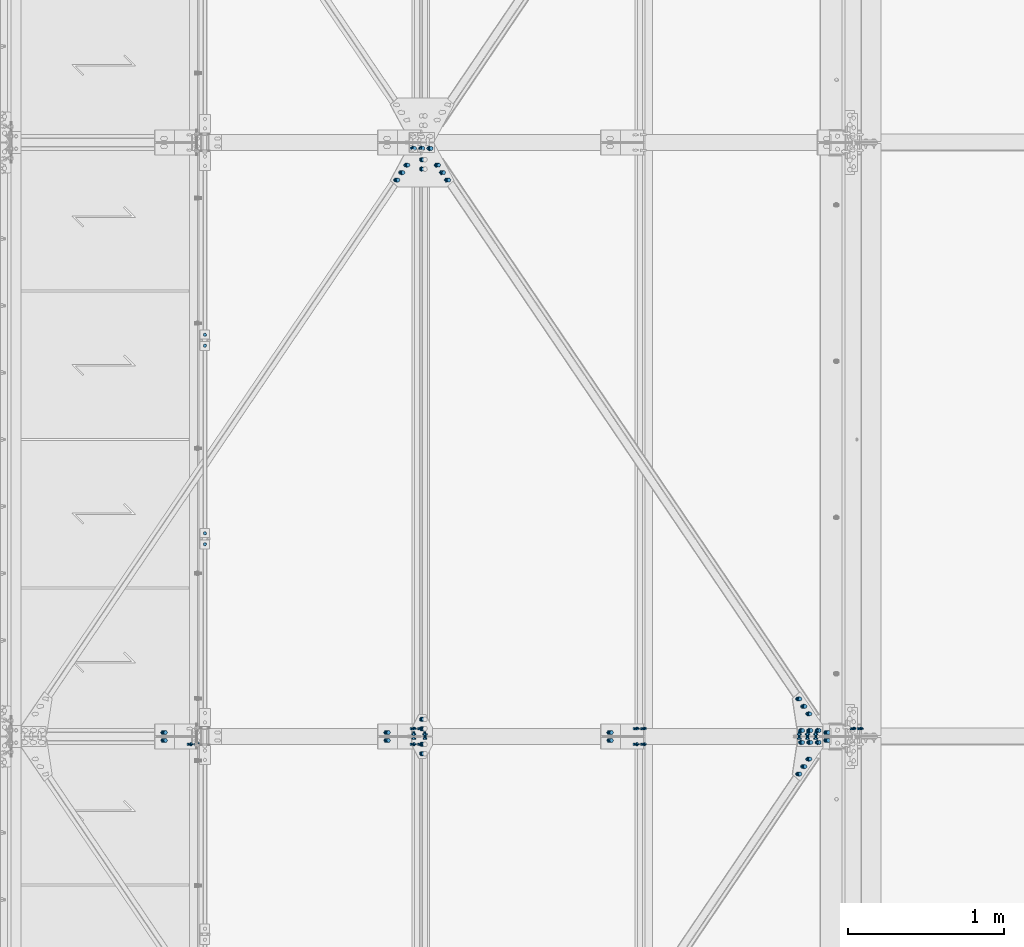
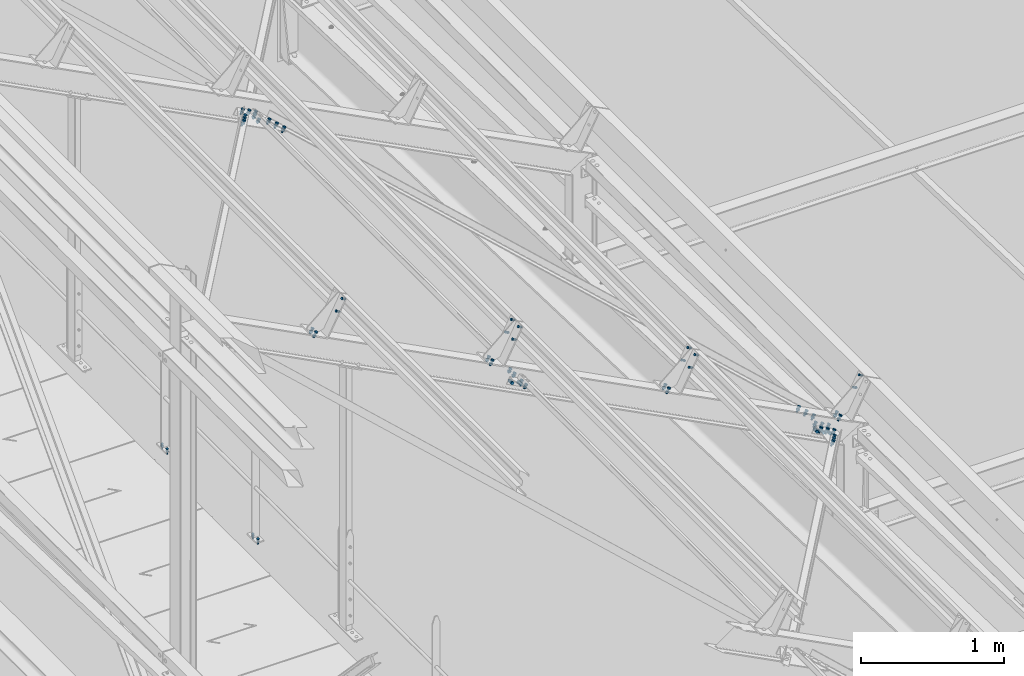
# One storey, part 175 of 362: 24 mechanical fasteners.
"""IFC2X3 building model written with IfcOpenShell, lengths in millimetres."""

from ifc_helpers import new_model, si_unit, frame, origin_with_axes, origin_2d_with_axis, place, context, subcontext, project, spatial, polyline, circle, outline, extrude, source, transform, mapped, material, type_object, element, save


model = new_model("IFC2X3")

# Units and contexts
model_context = context("Model", 3, precision=1e-05, world=origin_with_axes())
body_context = subcontext(model_context, "Body", "Model", "MODEL_VIEW")
ifc_project = project(units=[si_unit("LENGTHUNIT", "METRE", prefix="MILLI"), si_unit("AREAUNIT", "SQUARE_METRE"), si_unit("VOLUMEUNIT", "CUBIC_METRE"), si_unit("MASSUNIT", "GRAM", prefix="KILO"), si_unit("TIMEUNIT", "SECOND"), si_unit("PLANEANGLEUNIT", "RADIAN"), si_unit("SOLIDANGLEUNIT", "STERADIAN"), si_unit("THERMODYNAMICTEMPERATUREUNIT", "DEGREE_CELSIUS"), si_unit("LUMINOUSINTENSITYUNIT", "LUMEN")], contexts=[model_context])

# Site, building, storey
site_placement = place(None, origin_with_axes())
site = spatial("IfcSite", under=ifc_project, at=site_placement, Name="Undefined", CompositionType="ELEMENT")
building_placement = place(site_placement, origin_with_axes())
building = spatial("IfcBuilding", under=site, at=building_placement, Name="Undefined", CompositionType="ELEMENT")
storey_placement = place(building_placement, origin_with_axes())
storey = spatial("IfcBuildingStorey", under=building, at=storey_placement, Name="Undefined", CompositionType="ELEMENT", Elevation=0.0)

# Mechanical fasteners
ifc_material_1 = material(Name="8.8-SB-ZINGUE")
mechanical_fastener_type = type_object("IfcMechanicalFastenerType", Name="Bolt assembly")
shared_shape_1 = source(origin_with_axes(), body_context, "Body", "SweptSolid", [
    extrude(circle(Radius=7.0, at=origin_2d_with_axis()), frame((0.0, -0.100011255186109, 0.0), z_axis=(0.0, 1.0, 0.0), x_axis=(1.0, 0.0, 0.0)), (0.0, 0.0, 1.0), 3.1),
    extrude(circle(Radius=7.0, at=origin_2d_with_axis()), frame((0.0, -9.9, 0.0), z_axis=(0.0, 1.0, 0.0), x_axis=(1.0, 0.0, 0.0)), (0.0, 0.0, 1.0), 10.0),
    extrude(outline(polyline([(10.39230484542, 0.0), (5.19615242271, 9.00000000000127), (-5.19615242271, 9.00000000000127), (-10.39230484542, 0.0), (-5.19615242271, -9.00000000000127), (5.19615242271, -9.00000000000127), (10.39230484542, 0.0)])), frame((0.0, -17.92, 0.0), z_axis=(0.0, 1.0, 0.0), x_axis=(1.0, 0.0, 0.0)), (0.0, 0.0, 1.0), 7.92),
    extrude(circle(Radius=6.0, at=origin_2d_with_axis()), frame((0.0, -10.0000010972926, 0.0), z_axis=(0.0, 1.0, 0.0), x_axis=(1.0, 0.0, 0.0)), (0.0, 0.0, 1.0), 30.0),
    extrude(outline(polyline([(11.5008173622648, 0.0), (5.7504086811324, 9.96000000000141), (-5.7504086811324, 9.96000000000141), (-11.5008173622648, 0.0), (-5.7504086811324, -9.96000000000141), (5.7504086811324, -9.96000000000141), (11.5008173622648, 0.0)])), frame((0.0, 3.00000067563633, 0.0), z_axis=(0.0, 1.0, 0.0), x_axis=(1.0, 0.0, 0.0)), (0.0, 0.0, 1.0), 7.92),
])
mechanical_fastener_1_placement = place(storey_placement, frame((28930.4869404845, 7649.9999403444, 8812.17854909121), z_axis=(0.0, 1.0, 0.0), x_axis=(0.460093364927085, 0.0, 0.887870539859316)))
element("IfcMechanicalFastener", 1, at=mechanical_fastener_1_placement, inside=storey, type_object=mechanical_fastener_type, material=ifc_material_1, Name="Bolt assembly", NominalDiameter=12.0, NominalLength=30.0, context=body_context, shape_type="MappedRepresentation", body=[
    mapped(shared_shape_1, transform((0.0, 0.0, 0.0))),
    mapped(shared_shape_1, transform((99.9999999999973, -1.63709046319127e-11, 7.73070496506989e-12))),
])
ifc_material_2 = material(Name="#_SB-8.8-ZINGUE")
shared_shape_2 = source(origin_with_axes(), body_context, "Body", "SweptSolid", [
    extrude(circle(Radius=9.0, at=origin_2d_with_axis()), frame((0.0, 0.1, 0.0), z_axis=(0.0, 1.0, 0.0), x_axis=(1.0, 0.0, 0.0)), (0.0, 0.0, 1.0), 6.0),
    extrude(circle(Radius=9.0, at=origin_2d_with_axis()), frame((0.0, 5.90002706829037, 0.0), z_axis=(0.0, 1.0, 0.0), x_axis=(1.0, 0.0, 0.0)), (0.0, 0.0, 1.0), 6.1),
    extrude(outline(polyline([(13.85640646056, 0.0), (6.92820323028, 12.0000000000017), (-6.92820323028, 12.0000000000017), (-13.85640646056, 0.0), (-6.92820323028, -12.0000000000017), (6.92820323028, -12.0000000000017), (13.85640646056, 0.0)])), frame((0.0, -10.5600019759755, 0.0), z_axis=(0.0, 1.0, 0.0), x_axis=(1.0, 0.0, 0.0)), (0.0, 0.0, 1.0), 10.56),
    extrude(circle(Radius=8.0, at=origin_2d_with_axis()), frame((0.0, 0.0, 0.0), z_axis=(0.0, 1.0, 0.0), x_axis=(1.0, 0.0, 0.0)), (0.0, 0.0, 1.0), 40.0),
    extrude(outline(polyline([(15.3344231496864, 0.0), (7.6672115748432, 13.2800000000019), (-7.6672115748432, 13.2800000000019), (-15.3344231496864, 0.0), (-7.6672115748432, -13.2800000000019), (7.6672115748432, -13.2800000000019), (15.3344231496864, 0.0)])), frame((0.0, 12.0000270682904, 0.0), z_axis=(0.0, 1.0, 0.0), x_axis=(1.0, 0.0, 0.0)), (0.0, 0.0, 1.0), 10.56),
])
mechanical_fastener_2_placement = place(storey_placement, frame((28658.0392827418, 7562.00034260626, 8604.21056185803), z_axis=(-0.887870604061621, -1.29999898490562e-08, 0.460093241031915), x_axis=(0.0, 1.0, 0.0)))
element("IfcMechanicalFastener", 2, at=mechanical_fastener_2_placement, inside=storey, type_object=mechanical_fastener_type, material=ifc_material_2, Name="Bolt assembly", NominalDiameter=16.0, NominalLength=40.0, context=body_context, shape_type="MappedRepresentation", body=[
    mapped(shared_shape_2, transform((0.0, 0.0, -60.0))),
    mapped(shared_shape_2, transform((0.0, 0.0, 0.0))),
    mapped(shared_shape_2, transform((0.0, 0.0, 60.0))),
])
shared_shape_3 = source(origin_with_axes(), body_context, "Body", "SweptSolid", [
    extrude(circle(Radius=7.0, at=origin_2d_with_axis()), frame((0.0, -10.0000010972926, 0.0), z_axis=(0.0, 1.0, 0.0), x_axis=(1.0, 0.0, 0.0)), (0.0, 0.0, 1.0), 10.1),
    extrude(outline(polyline([(10.39230484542, 0.0), (5.19615242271, 9.00000000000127), (-5.19615242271, 9.00000000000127), (-10.39230484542, 0.0), (-5.19615242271, -9.00000000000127), (5.19615242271, -9.00000000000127), (10.39230484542, 0.0)])), frame((0.0, -17.92, 0.0), z_axis=(0.0, 1.0, 0.0), x_axis=(1.0, 0.0, 0.0)), (0.0, 0.0, 1.0), 7.92),
    extrude(circle(Radius=6.0, at=origin_2d_with_axis()), frame((0.0, -10.0000010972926, 0.0), z_axis=(0.0, 1.0, 0.0), x_axis=(1.0, 0.0, 0.0)), (0.0, 0.0, 1.0), 40.0),
    extrude(outline(polyline([(11.5008173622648, 0.0), (5.7504086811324, 9.96000000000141), (-5.7504086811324, 9.96000000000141), (-11.5008173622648, 0.0), (-5.7504086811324, -9.96000000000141), (5.7504086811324, -9.96000000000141), (11.5008173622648, 0.0)])), frame((0.0, 0.0, 0.0), z_axis=(0.0, 1.0, 0.0), x_axis=(1.0, 0.0, 0.0)), (0.0, 0.0, 1.0), 7.92),
])
for number, where, z_axis, x_axis, name in (
    (3, (24783.9916039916, 8830.00343957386, 8240.00000102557), (-1.0, 0.0, 0.0), (0.0, 1.0, 0.0), "Bolt assembly"),
    (4, (24783.9916050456, 10100.0034395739, 8240.00000015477), (-1.0, 0.0, 0.0), (0.0, 1.0, 0.0), "Bolt assembly"),
):
    element("IfcMechanicalFastener", number, at=place(storey_placement, frame(where, z_axis=z_axis, x_axis=x_axis)), inside=storey, type_object=mechanical_fastener_type, material=ifc_material_1, Name=name, NominalDiameter=12.0, NominalLength=40.0, context=body_context, shape_type="MappedRepresentation", body=[
        mapped(shared_shape_3, transform((0.0, 0.0, 0.0))),
        mapped(shared_shape_3, transform((70.0, -2.91038304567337e-11, 2.18278728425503e-10))),
    ])
shared_shape_4 = source(origin_with_axes(), body_context, "Body", "SweptSolid", [
    extrude(circle(Radius=9.0, at=origin_2d_with_axis()), frame((0.0, -5.8999542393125, 0.0), z_axis=(0.0, 1.0, 0.0), x_axis=(1.0, 0.0, 0.0)), (0.0, 0.0, 1.0), 6.0),
    extrude(circle(Radius=9.0, at=origin_2d_with_axis()), frame((0.0, -0.10007666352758, 0.0), z_axis=(0.0, 1.0, 0.0), x_axis=(1.0, 0.0, 0.0)), (0.0, 0.0, 1.0), 6.1),
    extrude(outline(polyline([(13.85640646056, 0.0), (6.92820323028, 12.0000000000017), (-6.92820323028, 12.0000000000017), (-13.85640646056, 0.0), (-6.92820323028, -12.0000000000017), (6.92820323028, -12.0000000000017), (13.85640646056, 0.0)])), frame((0.0, -16.5599735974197, 0.0), z_axis=(0.0, 1.0, 0.0), x_axis=(1.0, 0.0, 0.0)), (0.0, 0.0, 1.0), 10.56),
    extrude(circle(Radius=8.0, at=origin_2d_with_axis()), frame((0.0, -5.9999542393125, 0.0), z_axis=(0.0, 1.0, 0.0), x_axis=(1.0, 0.0, 0.0)), (0.0, 0.0, 1.0), 40.0),
    extrude(outline(polyline([(15.3344231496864, 0.0), (7.6672115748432, 13.2800000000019), (-7.6672115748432, 13.2800000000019), (-15.3344231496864, 0.0), (-7.6672115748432, -13.2800000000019), (7.6672115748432, -13.2800000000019), (15.3344231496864, 0.0)])), frame((0.0, 6.0, 0.0), z_axis=(0.0, 1.0, 0.0), x_axis=(1.0, 0.0, 0.0)), (0.0, 0.0, 1.0), 10.56),
])
mechanical_fastener_3_placement = place(storey_placement, frame((26273.0064541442, 11255.1901202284, 9840.13105217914), z_axis=(0.706117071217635, 0.60622555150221, -0.365908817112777), x_axis=(0.538249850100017, -0.795292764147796, -0.278920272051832)))
element("IfcMechanicalFastener", 5, at=mechanical_fastener_3_placement, inside=storey, type_object=mechanical_fastener_type, material=ifc_material_2, Name="Bolt assembly", NominalDiameter=16.0, NominalLength=40.0, context=body_context, shape_type="MappedRepresentation", body=[
    mapped(shared_shape_4, transform((0.0, 0.0, 0.0))),
    mapped(shared_shape_4, transform((60.0, 0.0, 0.0))),
    mapped(shared_shape_4, transform((120.0, 0.0, 0.0))),
])
shared_shape_5 = source(origin_with_axes(), body_context, "Body", "SweptSolid", [
    extrude(circle(Radius=7.0, at=origin_2d_with_axis()), frame((0.0, -0.100011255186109, 0.0), z_axis=(0.0, 1.0, 0.0), x_axis=(1.0, 0.0, 0.0)), (0.0, 0.0, 1.0), 1.6),
    extrude(circle(Radius=7.0, at=origin_2d_with_axis()), frame((0.0, -9.9, 0.0), z_axis=(0.0, 1.0, 0.0), x_axis=(1.0, 0.0, 0.0)), (0.0, 0.0, 1.0), 10.0),
    extrude(outline(polyline([(10.39230484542, 0.0), (5.19615242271, 9.00000000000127), (-5.19615242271, 9.00000000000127), (-10.39230484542, 0.0), (-5.19615242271, -9.00000000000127), (5.19615242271, -9.00000000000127), (10.39230484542, 0.0)])), frame((0.0, -17.92, 0.0), z_axis=(0.0, 1.0, 0.0), x_axis=(1.0, 0.0, 0.0)), (0.0, 0.0, 1.0), 7.92),
    extrude(circle(Radius=6.0, at=origin_2d_with_axis()), frame((0.0, -10.0000010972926, 0.0), z_axis=(0.0, 1.0, 0.0), x_axis=(1.0, 0.0, 0.0)), (0.0, 0.0, 1.0), 30.0),
    extrude(outline(polyline([(11.5008173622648, 0.0), (5.7504086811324, 9.96000000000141), (-5.7504086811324, 9.96000000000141), (-11.5008173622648, 0.0), (-5.7504086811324, -9.96000000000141), (5.7504086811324, -9.96000000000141), (11.5008173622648, 0.0)])), frame((0.0, 1.50001896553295, 0.0), z_axis=(0.0, 1.0, 0.0), x_axis=(1.0, 0.0, 0.0)), (0.0, 0.0, 1.0), 7.92),
])
for number, where, z_axis, x_axis, name in (
    (6, (27543.3559964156, 7649.9999403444, 9529.86147368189), (0.0, 1.0, 0.0), (0.460093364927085, 0.0, 0.887870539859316), "Bolt assembly"),
    (7, (26116.7309957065, 7649.9999403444, 10269.1364505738), (0.0, 1.0, 0.0), (0.460093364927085, 0.0, 0.887870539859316), "Bolt assembly"),
):
    element("IfcMechanicalFastener", number, at=place(storey_placement, frame(where, z_axis=z_axis, x_axis=x_axis)), inside=storey, type_object=mechanical_fastener_type, material=ifc_material_1, Name=name, NominalDiameter=12.0, NominalLength=30.0, context=body_context, shape_type="MappedRepresentation", body=[
        mapped(shared_shape_5, transform((0.0, 0.0, 0.0))),
        mapped(shared_shape_5, transform((102.00000000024, -2.51020537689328e-10, 0.0))),
    ])
shared_shape_6 = source(origin_with_axes(), body_context, "Body", "SweptSolid", [
    extrude(circle(Radius=7.0, at=origin_2d_with_axis()), frame((0.0, -0.10007666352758, 0.0), z_axis=(0.0, 1.0, 0.0), x_axis=(1.0, 0.0, 0.0)), (0.0, 0.0, 1.0), 1.6),
    extrude(circle(Radius=7.0, at=origin_2d_with_axis()), frame((0.0, -9.9, 0.0), z_axis=(0.0, 1.0, 0.0), x_axis=(1.0, 0.0, 0.0)), (0.0, 0.0, 1.0), 10.0),
    extrude(outline(polyline([(10.39230484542, 0.0), (5.19615242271, 9.00000000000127), (-5.19615242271, 9.00000000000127), (-10.39230484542, 0.0), (-5.19615242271, -9.00000000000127), (5.19615242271, -9.00000000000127), (10.39230484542, 0.0)])), frame((0.0, -17.92, 0.0), z_axis=(0.0, 1.0, 0.0), x_axis=(1.0, 0.0, 0.0)), (0.0, 0.0, 1.0), 7.92),
    extrude(circle(Radius=6.0, at=origin_2d_with_axis()), frame((0.0, -10.0000010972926, 0.0), z_axis=(0.0, 1.0, 0.0), x_axis=(1.0, 0.0, 0.0)), (0.0, 0.0, 1.0), 30.0),
    extrude(outline(polyline([(11.5008173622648, 0.0), (5.7504086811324, 9.96000000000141), (-5.7504086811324, 9.96000000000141), (-11.5008173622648, 0.0), (-5.7504086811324, -9.96000000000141), (5.7504086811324, -9.96000000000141), (11.5008173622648, 0.0)])), frame((0.0, 1.49996853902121, 0.0), z_axis=(0.0, 1.0, 0.0), x_axis=(1.0, 0.0, 0.0)), (0.0, 0.0, 1.0), 7.92),
])
for number, where, z_axis, x_axis, name in (
    (8, (24690.1059950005, 7550.0000596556, 11008.4114274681), (0.0, 1.0, 0.0), (0.460093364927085, 0.0, 0.887870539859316), "Bolt assembly"),
    (9, (27543.3559964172, 7550.0000596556, 9529.86147368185), (0.0, 1.0, 0.0), (0.460093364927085, 0.0, 0.887870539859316), "Bolt assembly"),
    (10, (26116.7309957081, 7550.0000596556, 10269.1364505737), (0.0, 1.0, 0.0), (0.460093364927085, 0.0, 0.887870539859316), "Bolt assembly"),
):
    element("IfcMechanicalFastener", number, at=place(storey_placement, frame(where, z_axis=z_axis, x_axis=x_axis)), inside=storey, type_object=mechanical_fastener_type, material=ifc_material_1, Name=name, NominalDiameter=12.0, NominalLength=30.0, context=body_context, shape_type="MappedRepresentation", body=[
        mapped(shared_shape_6, transform((0.0, 0.0, 0.0))),
        mapped(shared_shape_6, transform((102.00000000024, -2.51020537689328e-10, 0.0))),
    ])
shared_shape_7 = source(origin_with_axes(), body_context, "Body", "SweptSolid", [
    extrude(circle(Radius=9.0, at=origin_2d_with_axis()), frame((0.0, -0.0999426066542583, 0.0), z_axis=(0.0, 1.0, 0.0), x_axis=(1.0, 0.0, 0.0)), (0.0, 0.0, 1.0), 8.6),
    extrude(circle(Radius=9.0, at=origin_2d_with_axis()), frame((0.0, -9.9, 0.0), z_axis=(0.0, 1.0, 0.0), x_axis=(1.0, 0.0, 0.0)), (0.0, 0.0, 1.0), 10.0),
    extrude(outline(polyline([(13.85640646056, 0.0), (6.92820323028, 12.0000000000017), (-6.92820323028, 12.0000000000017), (-13.85640646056, 0.0), (-6.92820323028, -12.0000000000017), (6.92820323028, -12.0000000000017), (13.85640646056, 0.0)])), frame((0.0, -20.5600000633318, 0.0), z_axis=(0.0, 1.0, 0.0), x_axis=(1.0, 0.0, 0.0)), (0.0, 0.0, 1.0), 10.56),
    extrude(circle(Radius=8.0, at=origin_2d_with_axis()), frame((0.0, -10.0000010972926, 0.0), z_axis=(0.0, 1.0, 0.0), x_axis=(1.0, 0.0, 0.0)), (0.0, 0.0, 1.0), 40.0),
    extrude(outline(polyline([(15.3344231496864, 0.0), (7.6672115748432, 13.2800000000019), (-7.6672115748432, 13.2800000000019), (-15.3344231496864, 0.0), (-7.6672115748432, -13.2800000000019), (7.6672115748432, -13.2800000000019), (15.3344231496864, 0.0)])), frame((0.0, 8.50005763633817, 0.0), z_axis=(0.0, 1.0, 0.0), x_axis=(1.0, 0.0, 0.0)), (0.0, 0.0, 1.0), 10.56),
])
for number, where, z_axis, x_axis, name in (
    (11, (24522.9168472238, 7600.00003751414, 10859.6539964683), (0.0, 1.0, 0.0), (0.887870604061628, 0.0, -0.460093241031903), "Bolt assembly"),
    (12, (28762.8376993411, 7600.00003751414, 8662.53324755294), (0.0, 1.0, 0.0), (0.887870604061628, 0.0, -0.460093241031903), "Bolt assembly"),
    (13, (27376.1668486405, 7600.00003751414, 9381.10404268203), (0.0, 1.0, 0.0), (0.887870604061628, 0.0, -0.460093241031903), "Bolt assembly"),
    (14, (25949.541847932, 7600.00003751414, 10120.3790195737), (0.0, 1.0, 0.0), (0.887870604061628, 0.0, -0.460093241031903), "Bolt assembly"),
):
    element("IfcMechanicalFastener", number, at=place(storey_placement, frame(where, z_axis=z_axis, x_axis=x_axis)), inside=storey, type_object=mechanical_fastener_type, material=ifc_material_1, Name=name, NominalDiameter=16.0, NominalLength=40.0, context=body_context, shape_type="MappedRepresentation", body=[
        mapped(shared_shape_7, transform((0.0, 0.0, -25.0))),
        mapped(shared_shape_7, transform((0.0, 0.0, 25.0))),
    ])
shared_shape_8 = source(origin_with_axes(), body_context, "Body", "SweptSolid", [
    extrude(circle(Radius=9.0, at=origin_2d_with_axis()), frame((0.0, 5.90002706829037, 0.0), z_axis=(0.0, 1.0, 0.0), x_axis=(1.0, 0.0, 0.0)), (0.0, 0.0, 1.0), 6.1),
    extrude(circle(Radius=9.0, at=origin_2d_with_axis()), frame((0.0, 0.1, 0.0), z_axis=(0.0, 1.0, 0.0), x_axis=(1.0, 0.0, 0.0)), (0.0, 0.0, 1.0), 6.0),
    extrude(outline(polyline([(13.85640646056, 0.0), (6.92820323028, 12.0000000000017), (-6.92820323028, 12.0000000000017), (-13.85640646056, 0.0), (-6.92820323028, -12.0000000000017), (6.92820323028, -12.0000000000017), (13.85640646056, 0.0)])), frame((0.0, -10.5600019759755, 0.0), z_axis=(0.0, 1.0, 0.0), x_axis=(1.0, 0.0, 0.0)), (0.0, 0.0, 1.0), 10.56),
    extrude(circle(Radius=8.0, at=origin_2d_with_axis()), frame((0.0, 0.0, 0.0), z_axis=(0.0, 1.0, 0.0), x_axis=(1.0, 0.0, 0.0)), (0.0, 0.0, 1.0), 40.0),
    extrude(outline(polyline([(15.3344231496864, 0.0), (7.6672115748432, 13.2800000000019), (-7.6672115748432, 13.2800000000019), (-15.3344231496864, 0.0), (-7.6672115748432, -13.2800000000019), (7.6672115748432, -13.2800000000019), (15.3344231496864, 0.0)])), frame((0.0, 12.0000270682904, 0.0), z_axis=(0.0, 1.0, 0.0), x_axis=(1.0, 0.0, 0.0)), (0.0, 0.0, 1.0), 10.56),
])
mechanical_fastener_4_placement = place(storey_placement, frame((26175.0008549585, 11362.0003050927, 9890.91740869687), z_axis=(-0.887870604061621, -1.29999898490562e-08, 0.460093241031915), x_axis=(0.0, 1.0, 0.0)))
element("IfcMechanicalFastener", 15, at=mechanical_fastener_4_placement, inside=storey, type_object=mechanical_fastener_type, material=ifc_material_2, Name="Bolt assembly", NominalDiameter=16.0, NominalLength=40.0, context=body_context, shape_type="MappedRepresentation", body=[
    mapped(shared_shape_8, transform((0.0, 0.0, -60.0))),
    mapped(shared_shape_8, transform((0.0, 0.0, 0.0))),
    mapped(shared_shape_8, transform((0.0, 0.0, 60.0))),
])
shared_shape_9 = source(origin_with_axes(), body_context, "Body", "SweptSolid", [
    extrude(circle(Radius=9.0, at=origin_2d_with_axis()), frame((0.0, -5.8999542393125, 0.0), z_axis=(0.0, 1.0, 0.0), x_axis=(1.0, 0.0, 0.0)), (0.0, 0.0, 1.0), 6.0),
    extrude(circle(Radius=9.0, at=origin_2d_with_axis()), frame((0.0, -0.0999426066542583, 0.0), z_axis=(0.0, 1.0, 0.0), x_axis=(1.0, 0.0, 0.0)), (0.0, 0.0, 1.0), 6.1),
    extrude(outline(polyline([(13.85640646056, 0.0), (6.92820323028, 12.0000000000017), (-6.92820323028, 12.0000000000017), (-13.85640646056, 0.0), (-6.92820323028, -12.0000000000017), (6.92820323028, -12.0000000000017), (13.85640646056, 0.0)])), frame((0.0, -16.5599735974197, 0.0), z_axis=(0.0, 1.0, 0.0), x_axis=(1.0, 0.0, 0.0)), (0.0, 0.0, 1.0), 10.56),
    extrude(circle(Radius=8.0, at=origin_2d_with_axis()), frame((0.0, -5.9999542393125, 0.0), z_axis=(0.0, 1.0, 0.0), x_axis=(1.0, 0.0, 0.0)), (0.0, 0.0, 1.0), 40.0),
    extrude(outline(polyline([(15.3344231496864, 0.0), (7.6672115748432, 13.2800000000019), (-7.6672115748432, 13.2800000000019), (-15.3344231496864, 0.0), (-7.6672115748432, -13.2800000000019), (7.6672115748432, -13.2800000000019), (15.3344231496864, 0.0)])), frame((0.0, 6.0, 0.0), z_axis=(0.0, 1.0, 0.0), x_axis=(1.0, 0.0, 0.0)), (0.0, 0.0, 1.0), 10.56),
])
mechanical_fastener_5_placement = place(storey_placement, frame((26076.9933671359, 11255.1901179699, 9941.70474554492), z_axis=(0.706117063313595, -0.606225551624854, -0.365908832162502), x_axis=(-0.53824984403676, -0.795292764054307, 0.278920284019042)))
element("IfcMechanicalFastener", 16, at=mechanical_fastener_5_placement, inside=storey, type_object=mechanical_fastener_type, material=ifc_material_2, Name="Bolt assembly", NominalDiameter=16.0, NominalLength=40.0, context=body_context, shape_type="MappedRepresentation", body=[
    mapped(shared_shape_9, transform((0.0, 0.0, 0.0))),
    mapped(shared_shape_9, transform((60.0, 0.0, 0.0))),
    mapped(shared_shape_9, transform((120.0, 0.0, 0.0))),
])
shared_shape_10 = source(origin_with_axes(), body_context, "Body", "SweptSolid", [
    extrude(circle(Radius=9.0, at=origin_2d_with_axis()), frame((0.0, -3.89999843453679, 0.0), z_axis=(0.0, 1.0, 0.0), x_axis=(1.0, 0.0, 0.0)), (0.0, 0.0, 1.0), 4.0),
    extrude(circle(Radius=9.0, at=origin_2d_with_axis()), frame((0.0, -0.100011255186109, 0.0), z_axis=(0.0, 1.0, 0.0), x_axis=(1.0, 0.0, 0.0)), (0.0, 0.0, 1.0), 6.1),
    extrude(outline(polyline([(13.85640646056, 0.0), (6.92820323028, 12.0000000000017), (-6.92820323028, 12.0000000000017), (-13.85640646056, 0.0), (-6.92820323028, -12.0000000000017), (6.92820323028, -12.0000000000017), (13.85640646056, 0.0)])), frame((0.0, -14.560000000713, 0.0), z_axis=(0.0, 1.0, 0.0), x_axis=(1.0, 0.0, 0.0)), (0.0, 0.0, 1.0), 10.56),
    extrude(circle(Radius=8.0, at=origin_2d_with_axis()), frame((0.0, -3.99999923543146, 0.0), z_axis=(0.0, 1.0, 0.0), x_axis=(1.0, 0.0, 0.0)), (0.0, 0.0, 1.0), 30.0),
    extrude(outline(polyline([(15.3344231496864, 0.0), (7.6672115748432, 13.2800000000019), (-7.6672115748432, 13.2800000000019), (-15.3344231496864, 0.0), (-7.6672115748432, -13.2800000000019), (7.6672115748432, -13.2800000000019), (15.3344231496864, 0.0)])), frame((0.0, 6.0, 0.0), z_axis=(0.0, 1.0, 0.0), x_axis=(1.0, 0.0, 0.0)), (0.0, 0.0, 1.0), 10.56),
])
mechanical_fastener_6_placement = place(storey_placement, frame((26175.0017920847, 11290.0017567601, 9890.91692364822), z_axis=(0.887870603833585, 2.26639154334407e-05, -0.460093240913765), x_axis=(2.01259999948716e-05, -0.999999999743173, -1.04209999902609e-05)))
element("IfcMechanicalFastener", 17, at=mechanical_fastener_6_placement, inside=storey, type_object=mechanical_fastener_type, material=ifc_material_2, Name="Bolt assembly", NominalDiameter=16.0, NominalLength=30.0, context=body_context, shape_type="MappedRepresentation", body=[
    mapped(shared_shape_10, transform((0.0, 0.0, 0.0))),
    mapped(shared_shape_10, transform((60.0, 0.0, 0.0))),
])
shared_shape_11 = source(origin_with_axes(), body_context, "Body", "SweptSolid", [
    extrude(circle(Radius=9.0, at=origin_2d_with_axis()), frame((0.0, -5.8999542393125, 0.0), z_axis=(0.0, 1.0, 0.0), x_axis=(1.0, 0.0, 0.0)), (0.0, 0.0, 1.0), 6.0),
    extrude(circle(Radius=9.0, at=origin_2d_with_axis()), frame((0.0, -0.0999426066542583, 0.0), z_axis=(0.0, 1.0, 0.0), x_axis=(1.0, 0.0, 0.0)), (0.0, 0.0, 1.0), 6.1),
    extrude(outline(polyline([(13.85640646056, 0.0), (6.92820323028, 12.0000000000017), (-6.92820323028, 12.0000000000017), (-13.85640646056, 0.0), (-6.92820323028, -12.0000000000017), (6.92820323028, -12.0000000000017), (13.85640646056, 0.0)])), frame((0.0, -16.5599735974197, 0.0), z_axis=(0.0, 1.0, 0.0), x_axis=(1.0, 0.0, 0.0)), (0.0, 0.0, 1.0), 10.56),
    extrude(circle(Radius=8.0, at=origin_2d_with_axis()), frame((0.0, -5.9999542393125, 0.0), z_axis=(0.0, 1.0, 0.0), x_axis=(1.0, 0.0, 0.0)), (0.0, 0.0, 1.0), 40.0),
    extrude(outline(polyline([(15.3344231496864, 0.0), (7.6672115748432, 13.2800000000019), (-7.6672115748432, 13.2800000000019), (-15.3344231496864, 0.0), (-7.6672115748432, -13.2800000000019), (7.6672115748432, -13.2800000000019), (15.3344231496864, 0.0)])), frame((0.0, 6.00005739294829, 0.0), z_axis=(0.0, 1.0, 0.0), x_axis=(1.0, 0.0, 0.0)), (0.0, 0.0, 1.0), 10.56),
])
for number, where, z_axis, x_axis, name in (
    (18, (28648.8212738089, 7455.19015451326, 8608.98733680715), (0.706117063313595, -0.606225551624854, -0.365908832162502), (-0.53824984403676, -0.795292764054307, 0.278920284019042), "Bolt assembly"),
    (19, (28648.8212694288, 7744.81032465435, 8608.98733680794), (-0.706117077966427, -0.606225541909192, 0.365908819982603), (-0.538249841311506, 0.795292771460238, 0.278920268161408), "Bolt assembly"),
):
    element("IfcMechanicalFastener", number, at=place(storey_placement, frame(where, z_axis=z_axis, x_axis=x_axis)), inside=storey, type_object=mechanical_fastener_type, material=ifc_material_2, Name=name, NominalDiameter=16.0, NominalLength=40.0, context=body_context, shape_type="MappedRepresentation", body=[
        mapped(shared_shape_11, transform((0.0, 0.0, 0.0))),
        mapped(shared_shape_11, transform((60.0, 0.0, 0.0))),
        mapped(shared_shape_11, transform((120.0, 0.0, 0.0))),
    ])
shared_shape_12 = source(origin_with_axes(), body_context, "Body", "SweptSolid", [
    extrude(circle(Radius=9.0, at=origin_2d_with_axis()), frame((0.0, 0.1, 0.0), z_axis=(0.0, 1.0, 0.0), x_axis=(1.0, 0.0, 0.0)), (0.0, 0.0, 1.0), 6.0),
    extrude(circle(Radius=9.0, at=origin_2d_with_axis()), frame((0.0, 5.90008092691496, 0.0), z_axis=(0.0, 1.0, 0.0), x_axis=(1.0, 0.0, 0.0)), (0.0, 0.0, 1.0), 6.1),
    extrude(outline(polyline([(13.85640646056, 0.0), (6.92820323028, 12.0000000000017), (-6.92820323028, 12.0000000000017), (-13.85640646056, 0.0), (-6.92820323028, -12.0000000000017), (6.92820323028, -12.0000000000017), (13.85640646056, 0.0)])), frame((0.0, -10.5600019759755, 0.0), z_axis=(0.0, 1.0, 0.0), x_axis=(1.0, 0.0, 0.0)), (0.0, 0.0, 1.0), 10.56),
    extrude(circle(Radius=8.0, at=origin_2d_with_axis()), frame((0.0, 0.0, 0.0), z_axis=(0.0, 1.0, 0.0), x_axis=(1.0, 0.0, 0.0)), (0.0, 0.0, 1.0), 40.0),
    extrude(outline(polyline([(15.3344231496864, 0.0), (7.6672115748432, 13.2800000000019), (-7.6672115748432, 13.2800000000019), (-15.3344231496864, 0.0), (-7.6672115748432, -13.2800000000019), (7.6672115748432, -13.2800000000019), (15.3344231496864, 0.0)])), frame((0.0, 12.0000809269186, 0.0), z_axis=(0.0, 1.0, 0.0), x_axis=(1.0, 0.0, 0.0)), (0.0, 0.0, 1.0), 10.56),
])
mechanical_fastener_7_placement = place(storey_placement, frame((28658.0392816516, 7638.00013740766, 8604.21056185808), z_axis=(0.887870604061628, 0.0, -0.460093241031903), x_axis=(0.0, -1.0, 0.0)))
element("IfcMechanicalFastener", 20, at=mechanical_fastener_7_placement, inside=storey, type_object=mechanical_fastener_type, material=ifc_material_2, Name="Bolt assembly", NominalDiameter=16.0, NominalLength=40.0, context=body_context, shape_type="MappedRepresentation", body=[
    mapped(shared_shape_12, transform((0.0, 0.0, -60.0))),
    mapped(shared_shape_12, transform((0.0, 0.0, 0.0))),
    mapped(shared_shape_12, transform((0.0, 0.0, 60.0))),
])
shared_shape_13 = source(origin_with_axes(), body_context, "Body", "SweptSolid", [
    extrude(circle(Radius=9.0, at=origin_2d_with_axis()), frame((0.0, -2.80024280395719, 0.0), z_axis=(0.0, 1.0, 0.0), x_axis=(1.0, 0.0, 0.0)), (0.0, 0.0, 1.0), 5.6),
    extrude(circle(Radius=9.0, at=origin_2d_with_axis()), frame((0.0, 2.89989517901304, 0.0), z_axis=(0.0, 1.0, 0.0), x_axis=(1.0, 0.0, 0.0)), (0.0, 0.0, 1.0), 6.1),
    extrude(circle(Radius=9.0, at=origin_2d_with_axis()), frame((0.0, -8.89990143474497, 0.0), z_axis=(0.0, 1.0, 0.0), x_axis=(1.0, 0.0, 0.0)), (0.0, 0.0, 1.0), 6.0),
    extrude(outline(polyline([(13.85640646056, 0.0), (6.92820323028, 12.0000000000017), (-6.92820323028, 12.0000000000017), (-13.85640646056, 0.0), (-6.92820323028, -12.0000000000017), (6.92820323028, -12.0000000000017), (13.85640646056, 0.0)])), frame((0.0, -19.559901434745, 0.0), z_axis=(0.0, 1.0, 0.0), x_axis=(1.0, 0.0, 0.0)), (0.0, 0.0, 1.0), 10.56),
    extrude(circle(Radius=8.0, at=origin_2d_with_axis()), frame((0.0, -8.99990143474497, 0.0), z_axis=(0.0, 1.0, 0.0), x_axis=(1.0, 0.0, 0.0)), (0.0, 0.0, 1.0), 40.0),
    extrude(outline(polyline([(15.3344231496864, 0.0), (7.6672115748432, 13.2800000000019), (-7.6672115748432, 13.2800000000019), (-15.3344231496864, 0.0), (-7.6672115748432, -13.2800000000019), (7.6672115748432, -13.2800000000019), (15.3344231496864, 0.0)])), frame((0.0, 8.9999337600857, 0.0), z_axis=(0.0, 1.0, 0.0), x_axis=(1.0, 0.0, 0.0)), (0.0, 0.0, 1.0), 10.56),
])
mechanical_fastener_8_placement = place(storey_placement, frame((28639.1754583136, 7600.00024284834, 8567.80782996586), z_axis=(-0.887870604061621, -1.29999898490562e-08, 0.460093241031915), x_axis=(0.460093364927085, 0.0, 0.887870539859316)))
element("IfcMechanicalFastener", 21, at=mechanical_fastener_8_placement, inside=storey, type_object=mechanical_fastener_type, material=ifc_material_2, Name="Bolt assembly", NominalDiameter=16.0, NominalLength=40.0, context=body_context, shape_type="MappedRepresentation", body=[
    mapped(shared_shape_13, transform((0.0, 0.0, -60.0))),
    mapped(shared_shape_13, transform((0.0, 0.0, 0.0))),
    mapped(shared_shape_13, transform((0.0, 0.0, 60.0))),
])
shared_shape_14 = source(origin_with_axes(), body_context, "Body", "SweptSolid", [
    extrude(circle(Radius=9.0, at=origin_2d_with_axis()), frame((0.0, -2.80024280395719, 0.0), z_axis=(0.0, 1.0, 0.0), x_axis=(1.0, 0.0, 0.0)), (0.0, 0.0, 1.0), 5.6),
    extrude(circle(Radius=9.0, at=origin_2d_with_axis()), frame((0.0, 2.90000527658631, 0.0), z_axis=(0.0, 1.0, 0.0), x_axis=(1.0, 0.0, 0.0)), (0.0, 0.0, 1.0), 6.1),
    extrude(circle(Radius=9.0, at=origin_2d_with_axis()), frame((0.0, -8.90005437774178, 0.0), z_axis=(0.0, 1.0, 0.0), x_axis=(1.0, 0.0, 0.0)), (0.0, 0.0, 1.0), 6.0),
    extrude(outline(polyline([(13.85640646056, 0.0), (6.92820323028, 12.0000000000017), (-6.92820323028, 12.0000000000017), (-13.85640646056, 0.0), (-6.92820323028, -12.0000000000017), (6.92820323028, -12.0000000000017), (13.85640646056, 0.0)])), frame((0.0, -19.5600543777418, 0.0), z_axis=(0.0, 1.0, 0.0), x_axis=(1.0, 0.0, 0.0)), (0.0, 0.0, 1.0), 10.56),
    extrude(circle(Radius=8.0, at=origin_2d_with_axis()), frame((0.0, -9.00005437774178, 0.0), z_axis=(0.0, 1.0, 0.0), x_axis=(1.0, 0.0, 0.0)), (0.0, 0.0, 1.0), 40.0),
    extrude(outline(polyline([(15.3344231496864, 0.0), (7.6672115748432, 13.2800000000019), (-7.6672115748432, 13.2800000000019), (-15.3344231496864, 0.0), (-7.6672115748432, -13.2800000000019), (7.6672115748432, -13.2800000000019), (15.3344231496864, 0.0)])), frame((0.0, 8.99999939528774, 0.0), z_axis=(0.0, 1.0, 0.0), x_axis=(1.0, 0.0, 0.0)), (0.0, 0.0, 1.0), 10.56),
])
mechanical_fastener_9_placement = place(storey_placement, frame((26156.1371057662, 7600.00020530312, 9854.51466735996), z_axis=(-0.887870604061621, -1.29999898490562e-08, 0.460093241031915), x_axis=(0.460093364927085, 0.0, 0.887870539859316)))
element("IfcMechanicalFastener", 22, at=mechanical_fastener_9_placement, inside=storey, type_object=mechanical_fastener_type, material=ifc_material_2, Name="Bolt assembly", NominalDiameter=16.0, NominalLength=40.0, context=body_context, shape_type="MappedRepresentation", body=[
    mapped(shared_shape_14, transform((0.0, 0.0, 40.0))),
    mapped(shared_shape_14, transform((0.0, 0.0, -40.0))),
])
shared_shape_15 = source(origin_with_axes(), body_context, "Body", "SweptSolid", [
    extrude(circle(Radius=9.0, at=origin_2d_with_axis()), frame((0.0, -3.89999843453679, 0.0), z_axis=(0.0, 1.0, 0.0), x_axis=(1.0, 0.0, 0.0)), (0.0, 0.0, 1.0), 4.0),
    extrude(circle(Radius=9.0, at=origin_2d_with_axis()), frame((0.0, -0.10007666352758, 0.0), z_axis=(0.0, 1.0, 0.0), x_axis=(1.0, 0.0, 0.0)), (0.0, 0.0, 1.0), 6.1),
    extrude(outline(polyline([(13.85640646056, 0.0), (6.92820323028, 12.0000000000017), (-6.92820323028, 12.0000000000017), (-13.85640646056, 0.0), (-6.92820323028, -12.0000000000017), (6.92820323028, -12.0000000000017), (13.85640646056, 0.0)])), frame((0.0, -14.560000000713, 0.0), z_axis=(0.0, 1.0, 0.0), x_axis=(1.0, 0.0, 0.0)), (0.0, 0.0, 1.0), 10.56),
    extrude(circle(Radius=8.0, at=origin_2d_with_axis()), frame((0.0, -3.99999923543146, 0.0), z_axis=(0.0, 1.0, 0.0), x_axis=(1.0, 0.0, 0.0)), (0.0, 0.0, 1.0), 30.0),
    extrude(outline(polyline([(15.3344231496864, 0.0), (7.6672115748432, 13.2800000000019), (-7.6672115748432, 13.2800000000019), (-15.3344231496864, 0.0), (-7.6672115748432, -13.2800000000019), (7.6672115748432, -13.2800000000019), (15.3344231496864, 0.0)])), frame((0.0, 6.0, 0.0), z_axis=(0.0, 1.0, 0.0), x_axis=(1.0, 0.0, 0.0)), (0.0, 0.0, 1.0), 10.56),
])
for number, where, z_axis, x_axis, name in (
    (23, (26175.0042945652, 7550.00015093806, 9890.91565592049), (0.887870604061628, 0.0, -0.460093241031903), (0.0, -1.0, 0.0), "Bolt assembly"),
    (24, (26175.0042930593, 7650.00025398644, 9890.91565591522), (-0.887870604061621, -1.29999898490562e-08, 0.460093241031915), (0.0, 1.0, 0.0), "Bolt assembly"),
):
    element("IfcMechanicalFastener", number, at=place(storey_placement, frame(where, z_axis=z_axis, x_axis=x_axis)), inside=storey, type_object=mechanical_fastener_type, material=ifc_material_2, Name=name, NominalDiameter=16.0, NominalLength=30.0, context=body_context, shape_type="MappedRepresentation", body=[
        mapped(shared_shape_15, transform((0.0, 0.0, 0.0))),
        mapped(shared_shape_15, transform((60.0, 0.0, 0.0))),
    ])

save(model, "model.ifc")
